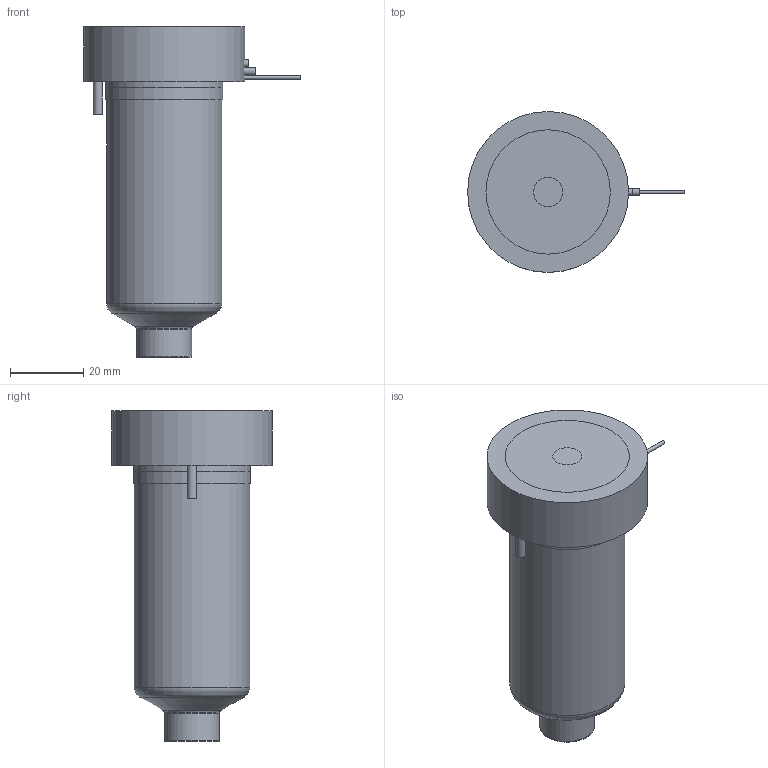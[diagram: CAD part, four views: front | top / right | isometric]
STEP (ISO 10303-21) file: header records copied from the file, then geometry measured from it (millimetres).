
FILE_DESCRIPTION(/* description */ (''),/* implementation_level */ '2;1');
FILE_NAME(/* name */ 'MXTBE19075_200C_a',/* time_stamp */ '2016-03-02T16:29:40+13:00',/* author */ (''),/* organization */ (''),/* preprocessor_version */ 'ST-DEVELOPER v9',/* originating_system */ 'UGS - NX 4.0',/* authorisation */ '');
FILE_SCHEMA (('CONFIG_CONTROL_DESIGN'));
Length unit declared in the file: millimetre
Products named in the file (1): matt3462e16h
Bounding box: 59.25 x 44 x 90.4 mm (x, y, z)
Volume: 126286.9 mm3; surface area: 22238.7 mm2
Topology: 2 solids, 2 shells, 66 faces, 141 edges, 92 vertices
Faces by surface type: plane 28, cylinder 24, torus 7, cone 6, bspline 1
Full cylindrical faces by diameter (mm): 1 x2, 1.2 x1, 2 x2, 2.5 x1, 8 x1, 14.61 x1, 15.01 x2, 18.3 x1, 25.4 x1, 31.5 x1, 32 x2, 44 x1
Entity records: 1965 total; most frequent: CARTESIAN_POINT 591, DIRECTION 282, ORIENTED_EDGE 208, AXIS2_PLACEMENT_3D 127, EDGE_LOOP 108, EDGE_CURVE 104, VERTEX_POINT 82, ADVANCED_FACE 66
